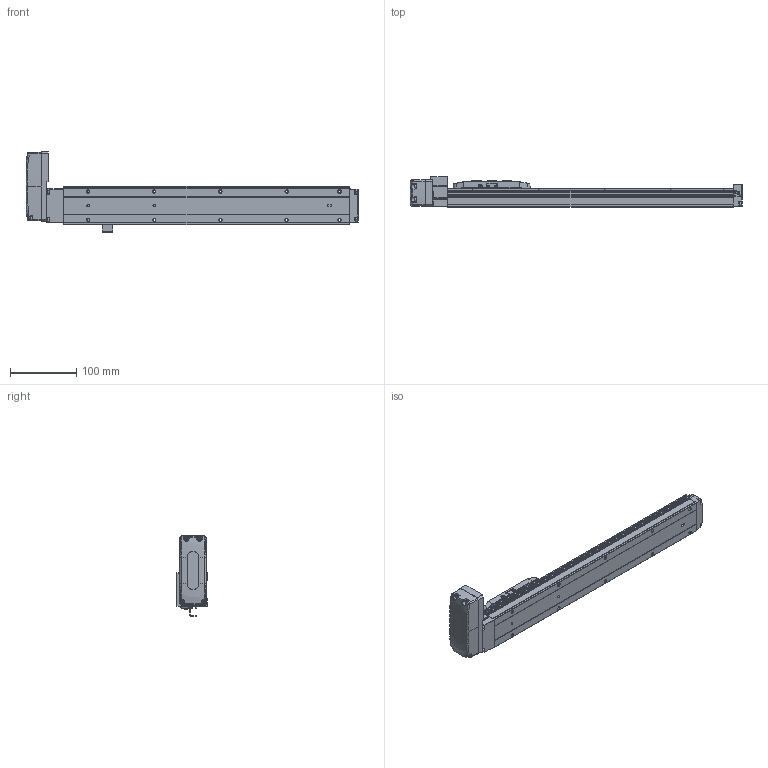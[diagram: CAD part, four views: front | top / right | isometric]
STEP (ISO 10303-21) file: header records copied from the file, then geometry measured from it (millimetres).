
FILE_DESCRIPTION (( 'STEP AP203' ), '1' );
FILE_NAME ('EFS-05L-P.STEP', '2025-07-17T05:35:40', ( '' ), ( '' ), 'SwSTEP 2.0', 'SolidWorks 2024', '' );
FILE_SCHEMA (( 'CONFIG_CONTROL_DESIGN' ));
Length unit declared in the file: millimetre
Products named in the file (1): EFS-05L-P
Bounding box: 502 x 46 x 121.64 mm (x, y, z)
Volume: 852571.7 mm3; surface area: 162522.9 mm2
Topology: 24 solids, 24 shells, 1451 faces, 3618 edges, 2230 vertices
Faces by surface type: plane 618, cylinder 507, cone 132, torus 88, bspline 78, sphere 28
Entity records: 46704 total; most frequent: CARTESIAN_POINT 12881, ORIENTED_EDGE 7116, DIRECTION 6986, EDGE_CURVE 3558, AXIS2_PLACEMENT_3D 2534, VERTEX_POINT 2230, LINE 1918, VECTOR 1918
